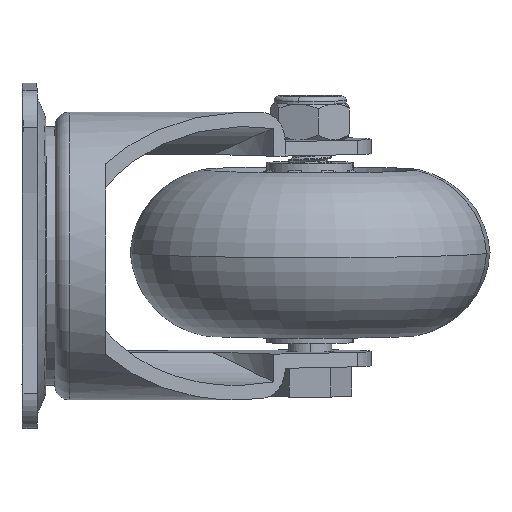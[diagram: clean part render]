
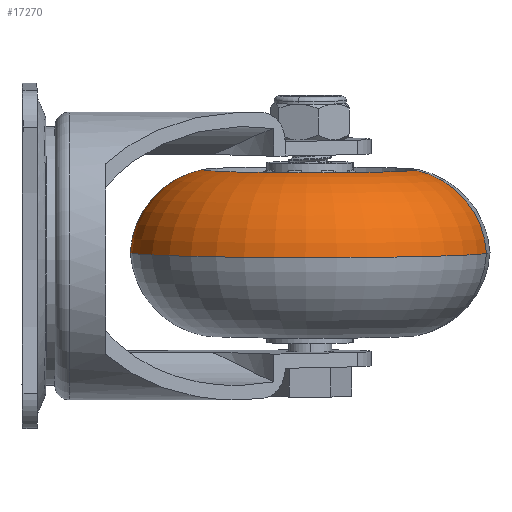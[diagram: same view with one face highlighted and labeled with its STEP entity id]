
A CAD part, left-side view. The second image highlights one B-rep face of the part: STEP entity #17270.
In plain terms, the highlighted toroidal (fillet/blend) face has major radius 12.523 mm and minor radius 12.5 mm.
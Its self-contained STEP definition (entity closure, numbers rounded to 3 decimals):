
#90 = DIRECTION ( 'NONE',  ( 0., 0., 1. ) ) ;
#191 = EDGE_CURVE ( 'NONE', #1544, #13677, #19714, .T. ) ;
#1544 = VERTEX_POINT ( 'NONE', #2923 ) ;
#1833 = CARTESIAN_POINT ( 'NONE',  ( 0., -0.752, 12.523 ) ) ;
#1867 = EDGE_CURVE ( 'NONE', #9707, #15896, #9816, .T. ) ;
#2923 = CARTESIAN_POINT ( 'NONE',  ( 0., 0., 25. ) ) ;
#4553 = CARTESIAN_POINT ( 'NONE',  ( 0., 0., 0. ) ) ;
#6155 = ORIENTED_EDGE ( 'NONE', *, *, #18049, .F. ) ;
#6219 = DIRECTION ( 'NONE',  ( 0., -1., 0. ) ) ;
#6873 = DIRECTION ( 'NONE',  ( 1., 0., 0. ) ) ;
#7249 = AXIS2_PLACEMENT_3D ( 'NONE', #11609, #6219, #7826 ) ;
#7641 = AXIS2_PLACEMENT_3D ( 'NONE', #4553, #20353, #18308 ) ;
#7826 = DIRECTION ( 'NONE',  ( 0., 0., -1. ) ) ;
#7892 = ORIENTED_EDGE ( 'NONE', *, *, #10146, .T. ) ;
#9330 = AXIS2_PLACEMENT_3D ( 'NONE', #20158, #12935, #11669 ) ;
#9707 = VERTEX_POINT ( 'NONE', #15130 ) ;
#9816 = CIRCLE ( 'NONE', #7249, 15. ) ;
#10146 = EDGE_CURVE ( 'NONE', #15896, #13677, #12750, .T. ) ;
#11609 = CARTESIAN_POINT ( 'NONE',  ( 0., 11.5, 0. ) ) ;
#11669 = DIRECTION ( 'NONE',  ( 0., 0., -1. ) ) ;
#12141 = CARTESIAN_POINT ( 'NONE',  ( 0., -0.752, -12.523 ) ) ;
#12580 = DIRECTION ( 'NONE',  ( -1., 0., 0. ) ) ;
#12750 = CIRCLE ( 'NONE', #14172, 12.5 ) ;
#12891 = ORIENTED_EDGE ( 'NONE', *, *, #191, .F. ) ;
#12935 = DIRECTION ( 'NONE',  ( 0., -1., 0. ) ) ;
#13383 = FACE_OUTER_BOUND ( 'NONE', #19139, .T. ) ;
#13677 = VERTEX_POINT ( 'NONE', #18429 ) ;
#14172 = AXIS2_PLACEMENT_3D ( 'NONE', #12141, #12580, #90 ) ;
#14472 = TOROIDAL_SURFACE ( 'NONE', #9330, 12.523, 12.5 ) ;
#15130 = CARTESIAN_POINT ( 'NONE',  ( 0., 11.5, 15. ) ) ;
#15600 = DIRECTION ( 'NONE',  ( 0., 0., -1. ) ) ;
#15896 = VERTEX_POINT ( 'NONE', #16014 ) ;
#16014 = CARTESIAN_POINT ( 'NONE',  ( 0., 11.5, -15. ) ) ;
#17050 = CIRCLE ( 'NONE', #21440, 12.5 ) ;
#17270 = ADVANCED_FACE ( 'NONE', ( #13383 ), #14472, .T. ) ;
#17985 = ORIENTED_EDGE ( 'NONE', *, *, #1867, .T. ) ;
#18049 = EDGE_CURVE ( 'NONE', #9707, #1544, #17050, .T. ) ;
#18308 = DIRECTION ( 'NONE',  ( 0., 0., -1. ) ) ;
#18429 = CARTESIAN_POINT ( 'NONE',  ( 0., 0., -25. ) ) ;
#19139 = EDGE_LOOP ( 'NONE', ( #6155, #17985, #7892, #12891 ) ) ;
#19714 = CIRCLE ( 'NONE', #7641, 25. ) ;
#20158 = CARTESIAN_POINT ( 'NONE',  ( 0., -0.752, 0. ) ) ;
#20353 = DIRECTION ( 'NONE',  ( 0., -1., 0. ) ) ;
#21440 = AXIS2_PLACEMENT_3D ( 'NONE', #1833, #6873, #15600 ) ;
